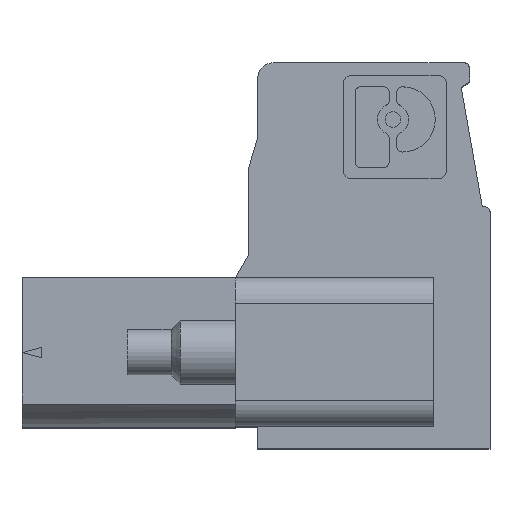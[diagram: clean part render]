
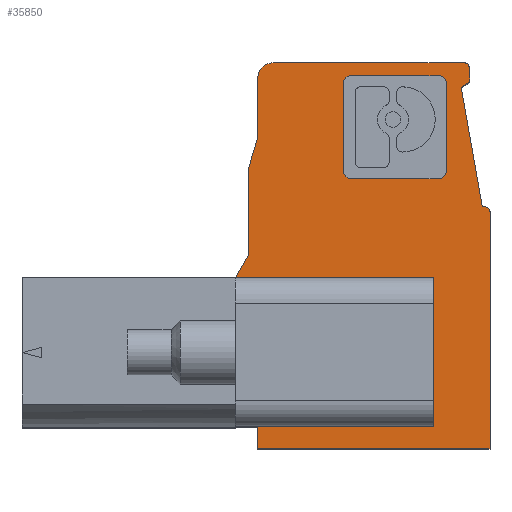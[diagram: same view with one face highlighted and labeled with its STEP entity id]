
A CAD part, top view. The second image highlights one B-rep face of the part: STEP entity #35850.
In plain terms, the highlighted planar face has unit normal (0, 0, 1).
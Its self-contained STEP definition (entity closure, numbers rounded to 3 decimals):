
#670=CARTESIAN_POINT('',(49.497,38.758,2.54));
#680=VERTEX_POINT('',#670);
#2810=CARTESIAN_POINT('',(57.406,51.966,2.54));
#2820=VERTEX_POINT('',#2810);
#2850=CARTESIAN_POINT('',(0.,18.823,2.54));
#2860=DIRECTION('',(0.866,0.5,0.));
#2870=VECTOR('',#2860,1.);
#2880=LINE('',#2850,#2870);
#2890=CARTESIAN_POINT('',(57.747,52.163,2.54));
#2900=VERTEX_POINT('',#2890);
#2910=EDGE_CURVE('',#2820,#2900,#2880,.T.);
#3140=CARTESIAN_POINT('',(50.097,52.313,2.54));
#3150=DIRECTION('',(0.,0.,1.));
#3160=DIRECTION('',(1.,0.,0.));
#3170=AXIS2_PLACEMENT_3D('',#3140,#3150,#3160);
#3180=CIRCLE('',#3170,0.6);
#3190=CARTESIAN_POINT('',(50.097,52.913,2.54));
#3200=VERTEX_POINT('',#3190);
#3210=CARTESIAN_POINT('',(49.497,52.313,2.54));
#3220=VERTEX_POINT('',#3210);
#3230=EDGE_CURVE('',#3200,#3220,#3180,.T.);
#5880=CARTESIAN_POINT('',(58.227,47.313,2.54));
#5890=VERTEX_POINT('',#5880);
#5920=CARTESIAN_POINT('',(66.569,0.,2.54));
#5930=DIRECTION('',(-0.174,0.985,0.));
#5940=VECTOR('',#5930,1.);
#5950=LINE('',#5920,#5940);
#5960=EDGE_CURVE('',#5890,#2820,#5950,.T.);
#12930=CARTESIAN_POINT('',(48.627,44.558,2.54));
#12940=VERTEX_POINT('',#12930);
#16010=CARTESIAN_POINT('',(58.327,47.313,2.54));
#16020=VERTEX_POINT('',#16010);
#16050=CARTESIAN_POINT('',(0.,47.313,2.54));
#16060=DIRECTION('',(1.,0.,0.));
#16070=VECTOR('',#16060,1.);
#16080=LINE('',#16050,#16070);
#16090=EDGE_CURVE('',#5890,#16020,#16080,.T.);
#18180=CARTESIAN_POINT('',(0.,0.,2.54));
#18190=DIRECTION('',(0.,0.,1.));
#18200=DIRECTION('',(1.,0.,0.));
#18210=AXIS2_PLACEMENT_3D('',#18180,#18190,#18200);
#18220=PLANE('',#18210);
#18870=CARTESIAN_POINT('',(56.545,48.694,2.54));
#18880=DIRECTION('',(0.,0.,1.));
#18890=DIRECTION('',(1.,0.,0.));
#18900=AXIS2_PLACEMENT_3D('',#18870,#18880,#18890);
#18910=CIRCLE('',#18900,0.281);
#18920=CARTESIAN_POINT('',(56.545,48.413,2.54));
#18930=VERTEX_POINT('',#18920);
#18940=CARTESIAN_POINT('',(56.826,48.694,2.54));
#18950=VERTEX_POINT('',#18940);
#18960=EDGE_CURVE('',#18930,#18950,#18910,.T.);
#19360=CARTESIAN_POINT('',(0.,48.413,2.54));
#19370=DIRECTION('',(-1.,0.,0.));
#19380=VECTOR('',#19370,1.);
#19390=LINE('',#19360,#19380);
#19400=CARTESIAN_POINT('',(53.107,48.413,2.54));
#19410=VERTEX_POINT('',#19400);
#19420=EDGE_CURVE('',#18930,#19410,#19390,.T.);
#19740=CARTESIAN_POINT('',(53.107,48.694,2.54));
#19750=DIRECTION('',(0.,0.,1.));
#19760=DIRECTION('',(1.,0.,0.));
#19770=AXIS2_PLACEMENT_3D('',#19740,#19750,#19760);
#19780=CIRCLE('',#19770,0.281);
#19790=CARTESIAN_POINT('',(52.826,48.694,2.54));
#19800=VERTEX_POINT('',#19790);
#19810=EDGE_CURVE('',#19800,#19410,#19780,.T.);
#20140=CARTESIAN_POINT('',(52.826,0.,2.54));
#20150=DIRECTION('',(0.,1.,0.));
#20160=VECTOR('',#20150,1.);
#20170=LINE('',#20140,#20160);
#20180=CARTESIAN_POINT('',(52.826,52.132,2.54));
#20190=VERTEX_POINT('',#20180);
#20200=EDGE_CURVE('',#19800,#20190,#20170,.T.);
#20520=CARTESIAN_POINT('',(0.,52.413,2.54));
#20530=DIRECTION('',(1.,0.,0.));
#20540=VECTOR('',#20530,1.);
#20550=LINE('',#20520,#20540);
#20560=CARTESIAN_POINT('',(53.107,52.413,2.54));
#20570=VERTEX_POINT('',#20560);
#20580=CARTESIAN_POINT('',(56.545,52.413,2.54));
#20590=VERTEX_POINT('',#20580);
#20600=EDGE_CURVE('',#20570,#20590,#20550,.T.);
#20990=CARTESIAN_POINT('',(56.545,52.132,2.54));
#21000=DIRECTION('',(0.,0.,1.));
#21010=DIRECTION('',(1.,0.,0.));
#21020=AXIS2_PLACEMENT_3D('',#20990,#21000,#21010);
#21030=CIRCLE('',#21020,0.281);
#21040=CARTESIAN_POINT('',(56.826,52.132,2.54));
#21050=VERTEX_POINT('',#21040);
#21060=EDGE_CURVE('',#21050,#20590,#21030,.T.);
#21390=CARTESIAN_POINT('',(53.107,52.132,2.54));
#21400=DIRECTION('',(0.,0.,1.));
#21410=DIRECTION('',(1.,0.,0.));
#21420=AXIS2_PLACEMENT_3D('',#21390,#21400,#21410);
#21430=CIRCLE('',#21420,0.281);
#21440=EDGE_CURVE('',#20570,#20190,#21430,.T.);
#21700=CARTESIAN_POINT('',(56.826,0.,2.54));
#21710=DIRECTION('',(0.,-1.,0.));
#21720=VECTOR('',#21710,1.);
#21730=LINE('',#21700,#21720);
#21740=EDGE_CURVE('',#21050,#18950,#21730,.T.);
#34550=CARTESIAN_POINT('',(56.327,0.,2.54));
#34560=DIRECTION('',(0.,1.,0.));
#34570=VECTOR('',#34560,1.);
#34580=LINE('',#34550,#34570);
#34590=CARTESIAN_POINT('',(56.327,38.758,2.54));
#34600=VERTEX_POINT('',#34590);
#34610=CARTESIAN_POINT('',(56.327,44.558,2.54));
#34620=VERTEX_POINT('',#34610);
#34630=EDGE_CURVE('',#34600,#34620,#34580,.T.);
#34640=ORIENTED_EDGE('',*,*,#34630,.F.);
#34650=CARTESIAN_POINT('',(0.,44.558,2.54));
#34660=DIRECTION('',(-1.,0.,0.));
#34670=VECTOR('',#34660,1.);
#34680=LINE('',#34650,#34670);
#34690=EDGE_CURVE('',#34620,#12940,#34680,.T.);
#34700=ORIENTED_EDGE('',*,*,#34690,.F.);
#34710=CARTESIAN_POINT('',(22.901,0.,2.54));
#34720=DIRECTION('',(0.5,0.866,0.));
#34730=VECTOR('',#34720,1.);
#34740=LINE('',#34710,#34730);
#34750=CARTESIAN_POINT('',(49.127,45.424,2.54));
#34760=VERTEX_POINT('',#34750);
#34770=EDGE_CURVE('',#12940,#34760,#34740,.T.);
#34780=ORIENTED_EDGE('',*,*,#34770,.F.);
#34790=CARTESIAN_POINT('',(49.127,0.,2.54));
#34800=DIRECTION('',(0.,-1.,0.));
#34810=VECTOR('',#34800,1.);
#34820=LINE('',#34790,#34810);
#34830=CARTESIAN_POINT('',(49.127,48.775,2.54));
#34840=VERTEX_POINT('',#34830);
#34850=EDGE_CURVE('',#34840,#34760,#34820,.T.);
#34860=ORIENTED_EDGE('',*,*,#34850,.T.);
#34870=CARTESIAN_POINT('',(0.,76.681,2.54));
#34880=DIRECTION('',(0.87,-0.494,0.));
#34890=VECTOR('',#34880,1.);
#34900=LINE('',#34870,#34890);
#34910=CARTESIAN_POINT('',(49.127,48.775,2.54));
#34920=VERTEX_POINT('',#34910);
#34930=EDGE_CURVE('',#34920,#34840,#34900,.T.);
#34940=ORIENTED_EDGE('',*,*,#34930,.T.);
#34950=CARTESIAN_POINT('',(34.539,0.,2.54));
#34960=DIRECTION('',(0.287,0.958,0.));
#34970=VECTOR('',#34960,1.);
#34980=LINE('',#34950,#34970);
#34990=CARTESIAN_POINT('',(49.497,50.013,2.54));
#35000=VERTEX_POINT('',#34990);
#35010=EDGE_CURVE('',#34920,#35000,#34980,.T.);
#35020=ORIENTED_EDGE('',*,*,#35010,.F.);
#35030=CARTESIAN_POINT('',(49.497,0.,2.54));
#35040=DIRECTION('',(0.,-1.,0.));
#35050=VECTOR('',#35040,1.);
#35060=LINE('',#35030,#35050);
#35070=EDGE_CURVE('',#3220,#35000,#35060,.T.);
#35080=ORIENTED_EDGE('',*,*,#35070,.T.);
#35090=ORIENTED_EDGE('',*,*,#3230,.T.);
#35100=CARTESIAN_POINT('',(0.,52.913,2.54));
#35110=DIRECTION('',(-1.,0.,0.));
#35120=VECTOR('',#35110,1.);
#35130=LINE('',#35100,#35120);
#35140=CARTESIAN_POINT('',(57.522,52.913,2.54));
#35150=VERTEX_POINT('',#35140);
#35160=EDGE_CURVE('',#35150,#3200,#35130,.T.);
#35170=ORIENTED_EDGE('',*,*,#35160,.T.);
#35180=CARTESIAN_POINT('',(57.522,52.713,2.54));
#35190=DIRECTION('',(0.,0.,1.));
#35200=DIRECTION('',(1.,0.,0.));
#35210=AXIS2_PLACEMENT_3D('',#35180,#35190,#35200);
#35220=CIRCLE('',#35210,0.2);
#35230=CARTESIAN_POINT('',(57.722,52.721,2.54));
#35240=VERTEX_POINT('',#35230);
#35250=EDGE_CURVE('',#35240,#35150,#35220,.T.);
#35260=ORIENTED_EDGE('',*,*,#35250,.T.);
#35270=CARTESIAN_POINT('',(60.024,0.,2.54));
#35280=DIRECTION('',(0.044,-0.999,0.));
#35290=VECTOR('',#35280,1.);
#35300=LINE('',#35270,#35290);
#35310=EDGE_CURVE('',#35240,#2900,#35300,.T.);
#35320=ORIENTED_EDGE('',*,*,#35310,.F.);
#35330=ORIENTED_EDGE('',*,*,#2910,.T.);
#35340=ORIENTED_EDGE('',*,*,#5960,.T.);
#35350=ORIENTED_EDGE('',*,*,#16090,.F.);
#35360=CARTESIAN_POINT('',(58.327,47.113,2.54));
#35370=DIRECTION('',(0.,0.,1.));
#35380=DIRECTION('',(1.,0.,0.));
#35390=AXIS2_PLACEMENT_3D('',#35360,#35370,#35380);
#35400=CIRCLE('',#35390,0.2);
#35410=CARTESIAN_POINT('',(58.527,47.113,2.54));
#35420=VERTEX_POINT('',#35410);
#35430=EDGE_CURVE('',#35420,#16020,#35400,.T.);
#35440=ORIENTED_EDGE('',*,*,#35430,.T.);
#35450=CARTESIAN_POINT('',(58.527,0.,2.54));
#35460=DIRECTION('',(0.,1.,0.));
#35470=VECTOR('',#35460,1.);
#35480=LINE('',#35450,#35470);
#35490=CARTESIAN_POINT('',(58.527,37.913,2.54));
#35500=VERTEX_POINT('',#35490);
#35510=EDGE_CURVE('',#35500,#35420,#35480,.T.);
#35520=ORIENTED_EDGE('',*,*,#35510,.T.);
#35530=CARTESIAN_POINT('',(0.,37.913,2.54));
#35540=DIRECTION('',(1.,0.,0.));
#35550=VECTOR('',#35540,1.);
#35560=LINE('',#35530,#35550);
#35570=CARTESIAN_POINT('',(49.497,37.913,2.54));
#35580=VERTEX_POINT('',#35570);
#35590=EDGE_CURVE('',#35580,#35500,#35560,.T.);
#35600=ORIENTED_EDGE('',*,*,#35590,.T.);
#35610=CARTESIAN_POINT('',(49.497,0.,2.54));
#35620=DIRECTION('',(0.,-1.,0.));
#35630=VECTOR('',#35620,1.);
#35640=LINE('',#35610,#35630);
#35650=EDGE_CURVE('',#680,#35580,#35640,.T.);
#35660=ORIENTED_EDGE('',*,*,#35650,.T.);
#35670=CARTESIAN_POINT('',(0.,38.758,2.54));
#35680=DIRECTION('',(1.,0.,0.));
#35690=VECTOR('',#35680,1.);
#35700=LINE('',#35670,#35690);
#35710=EDGE_CURVE('',#680,#34600,#35700,.T.);
#35720=ORIENTED_EDGE('',*,*,#35710,.F.);
#35730=EDGE_LOOP('',(#35720,#35660,#35600,#35520,#35440,#35350,#35340,
#35330,#35320,#35260,#35170,#35090,#35080,#35020,#34940,#34860,#34780,
#34700,#34640));
#35740=FACE_OUTER_BOUND('',#35730,.T.);
#35750=ORIENTED_EDGE('',*,*,#21440,.F.);
#35760=ORIENTED_EDGE('',*,*,#20200,.T.);
#35770=ORIENTED_EDGE('',*,*,#19810,.F.);
#35780=ORIENTED_EDGE('',*,*,#19420,.T.);
#35790=ORIENTED_EDGE('',*,*,#18960,.F.);
#35800=ORIENTED_EDGE('',*,*,#21740,.T.);
#35810=ORIENTED_EDGE('',*,*,#21060,.F.);
#35820=ORIENTED_EDGE('',*,*,#20600,.T.);
#35830=EDGE_LOOP('',(#35820,#35810,#35800,#35790,#35780,#35770,#35760,
#35750));
#35840=FACE_BOUND('',#35830,.T.);
#35850=ADVANCED_FACE('',(#35740,#35840),#18220,.T.);
